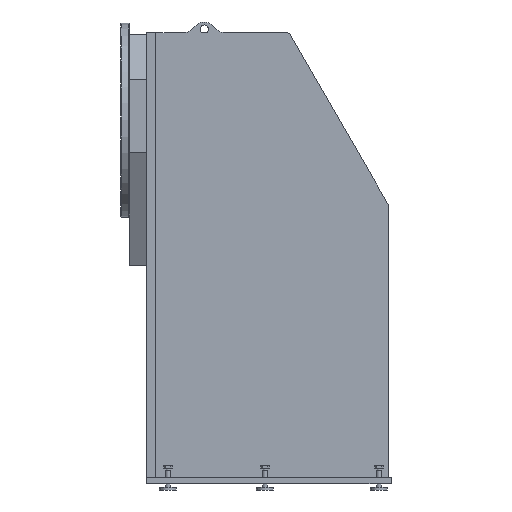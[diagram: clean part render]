
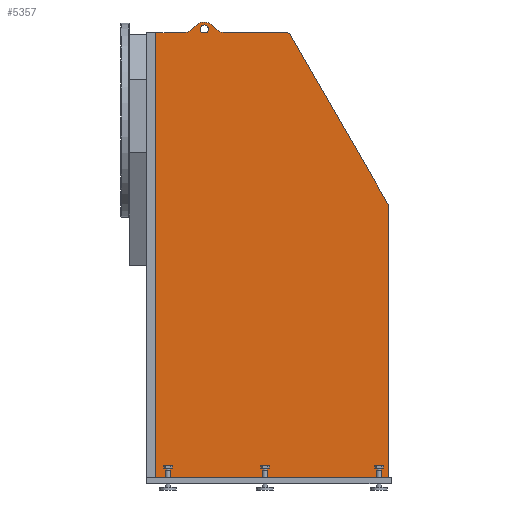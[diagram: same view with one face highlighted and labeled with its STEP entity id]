
A CAD part, front view. The second image highlights one B-rep face of the part: STEP entity #5357.
In plain terms, the highlighted planar face has unit normal (0, -1, 0).
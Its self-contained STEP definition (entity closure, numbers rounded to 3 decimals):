
#1112=CARTESIAN_POINT('',(0.,-325.,-1475.));
#1113=VERTEX_POINT('',#1112);
#1120=CARTESIAN_POINT('',(0.,-325.0,360.0));
#1121=VERTEX_POINT('',#1120);
#1122=CARTESIAN_POINT('',(0.,-325.,-1475.));
#1123=DIRECTION('',(0.0,0.0,1.0));
#1124=VECTOR('',#1123,1835.);
#1125=LINE('',#1122,#1124);
#1126=EDGE_CURVE('',#1113,#1121,#1125,.T.);
#1398=CARTESIAN_POINT('',(208.724,-325.,360.));
#1399=VERTEX_POINT('',#1398);
#1406=CARTESIAN_POINT('',(190.696,-325.,360.));
#1407=VERTEX_POINT('',#1406);
#1408=CARTESIAN_POINT('',(199.71,-325.,375.));
#1409=DIRECTION('',(0.0,1.0,0.0));
#1410=DIRECTION('',(1.0,0.0,0.0));
#1411=AXIS2_PLACEMENT_3D('',#1408,#1409,#1410);
#1412=CIRCLE('',#1411,17.5);
#1413=EDGE_CURVE('',#1407,#1399,#1412,.T.);
#5045=CARTESIAN_POINT('',(538.452,-325.,360.));
#5046=VERTEX_POINT('',#5045);
#5047=CARTESIAN_POINT('',(555.773,-325.,349.999));
#5048=VERTEX_POINT('',#5047);
#5049=CARTESIAN_POINT('',(538.452,-325.,340.));
#5050=DIRECTION('',(0.,1.0,0.));
#5051=DIRECTION('',(0.5,0.,0.866));
#5052=AXIS2_PLACEMENT_3D('',#5049,#5050,#5051);
#5053=CIRCLE('',#5052,20.);
#5054=EDGE_CURVE('',#5046,#5048,#5053,.T.);
#5077=CARTESIAN_POINT('',(113.621,-325.,360.));
#5078=VERTEX_POINT('',#5077);
#5079=CARTESIAN_POINT('',(0.,-325.0,360.0));
#5080=DIRECTION('',(1.0,0.0,0.0));
#5081=VECTOR('',#5080,113.621);
#5082=LINE('',#5079,#5081);
#5083=EDGE_CURVE('',#1121,#5078,#5082,.T.);
#5093=CARTESIAN_POINT('',(190.696,-325.,360.));
#5094=DIRECTION('',(1.0,0.0,0.0));
#5095=VECTOR('',#5094,18.028);
#5096=LINE('',#5093,#5095);
#5097=EDGE_CURVE('',#1407,#1399,#5096,.T.);
#5101=CARTESIAN_POINT('',(285.799,-325.,360.));
#5102=VERTEX_POINT('',#5101);
#5109=CARTESIAN_POINT('',(285.799,-325.,360.));
#5110=DIRECTION('',(1.0,0.0,0.0));
#5111=VECTOR('',#5110,252.653);
#5112=LINE('',#5109,#5111);
#5113=EDGE_CURVE('',#5102,#5046,#5112,.T.);
#5171=CARTESIAN_POINT('',(256.873,-325.,370.528));
#5172=VERTEX_POINT('',#5171);
#5179=CARTESIAN_POINT('',(285.799,-325.,405.));
#5180=DIRECTION('',(0.,-1.0,0.));
#5181=DIRECTION('',(-0.342,0.,-0.94));
#5182=AXIS2_PLACEMENT_3D('',#5179,#5180,#5181);
#5183=CIRCLE('',#5182,45.);
#5184=EDGE_CURVE('',#5172,#5102,#5183,.T.);
#5197=CARTESIAN_POINT('',(228.635,-325.,394.222));
#5198=VERTEX_POINT('',#5197);
#5205=CARTESIAN_POINT('',(228.635,-325.,394.222));
#5206=DIRECTION('',(0.766,0.0,-0.643));
#5207=VECTOR('',#5206,36.862);
#5208=LINE('',#5205,#5207);
#5209=EDGE_CURVE('',#5198,#5172,#5208,.T.);
#5221=CARTESIAN_POINT('',(142.547,-325.,370.528));
#5222=VERTEX_POINT('',#5221);
#5223=CARTESIAN_POINT('',(113.621,-325.,405.));
#5224=DIRECTION('',(0.,-1.,0.));
#5225=DIRECTION('',(0.342,0.,-0.94));
#5226=AXIS2_PLACEMENT_3D('',#5223,#5224,#5225);
#5227=CIRCLE('',#5226,45.);
#5228=EDGE_CURVE('',#5078,#5222,#5227,.T.);
#5244=CARTESIAN_POINT('',(170.785,-325.,394.222));
#5245=VERTEX_POINT('',#5244);
#5246=CARTESIAN_POINT('',(199.71,-325.,359.75));
#5247=DIRECTION('',(0.0,1.0,0.0));
#5248=DIRECTION('',(0.0,0.0,1.0));
#5249=AXIS2_PLACEMENT_3D('',#5246,#5247,#5248);
#5250=CIRCLE('',#5249,45.0);
#5251=EDGE_CURVE('',#5245,#5198,#5250,.T.);
#5270=CARTESIAN_POINT('',(960.,-325.,-350.253));
#5271=VERTEX_POINT('',#5270);
#5272=CARTESIAN_POINT('',(555.773,-325.,349.999));
#5273=DIRECTION('',(0.5,0.0,-0.866));
#5274=VECTOR('',#5273,808.549);
#5275=LINE('',#5272,#5274);
#5276=EDGE_CURVE('',#5048,#5271,#5275,.T.);
#5293=CARTESIAN_POINT('',(960.,-325.,-1475.));
#5294=VERTEX_POINT('',#5293);
#5295=CARTESIAN_POINT('',(960.,-325.,-350.253));
#5296=DIRECTION('',(0.0,0.0,-1.0));
#5297=VECTOR('',#5296,1124.747);
#5298=LINE('',#5295,#5297);
#5299=EDGE_CURVE('',#5271,#5294,#5298,.T.);
#5318=CARTESIAN_POINT('',(142.547,-325.,370.528));
#5319=DIRECTION('',(0.766,0.0,0.643));
#5320=VECTOR('',#5319,36.862);
#5321=LINE('',#5318,#5320);
#5322=EDGE_CURVE('',#5222,#5245,#5321,.T.);
#5329=CARTESIAN_POINT('',(434.977,-325.,-608.136));
#5330=DIRECTION('',(0.0,-1.0,0.0));
#5331=DIRECTION('',(1.0,0.0,0.0));
#5332=AXIS2_PLACEMENT_3D('',#5329,#5330,#5331);
#5333=PLANE('',#5332);
#5334=ORIENTED_EDGE('',*,*,#5184,.F.);
#5335=ORIENTED_EDGE('',*,*,#5209,.F.);
#5336=ORIENTED_EDGE('',*,*,#5251,.F.);
#5337=ORIENTED_EDGE('',*,*,#5322,.F.);
#5338=ORIENTED_EDGE('',*,*,#5228,.F.);
#5339=ORIENTED_EDGE('',*,*,#5083,.F.);
#5340=ORIENTED_EDGE('',*,*,#1126,.F.);
#5341=CARTESIAN_POINT('',(960.,-325.,-1475.));
#5342=DIRECTION('',(-1.0,0.0,0.0));
#5343=VECTOR('',#5342,960.0);
#5344=LINE('',#5341,#5343);
#5345=EDGE_CURVE('',#5294,#1113,#5344,.T.);
#5346=ORIENTED_EDGE('',*,*,#5345,.F.);
#5347=ORIENTED_EDGE('',*,*,#5299,.F.);
#5348=ORIENTED_EDGE('',*,*,#5276,.F.);
#5349=ORIENTED_EDGE('',*,*,#5054,.F.);
#5350=ORIENTED_EDGE('',*,*,#5113,.F.);
#5351=EDGE_LOOP('',(#5334,#5335,#5336,#5337,#5338,#5339,#5340,#5346,#5347,#5348,#5349,#5350));
#5352=FACE_OUTER_BOUND('',#5351,.T.);
#5353=ORIENTED_EDGE('',*,*,#1413,.T.);
#5354=ORIENTED_EDGE('',*,*,#5097,.F.);
#5355=EDGE_LOOP('',(#5353,#5354));
#5356=FACE_BOUND('',#5355,.T.);
#5357=ADVANCED_FACE('',(#5352,#5356),#5333,.T.);
